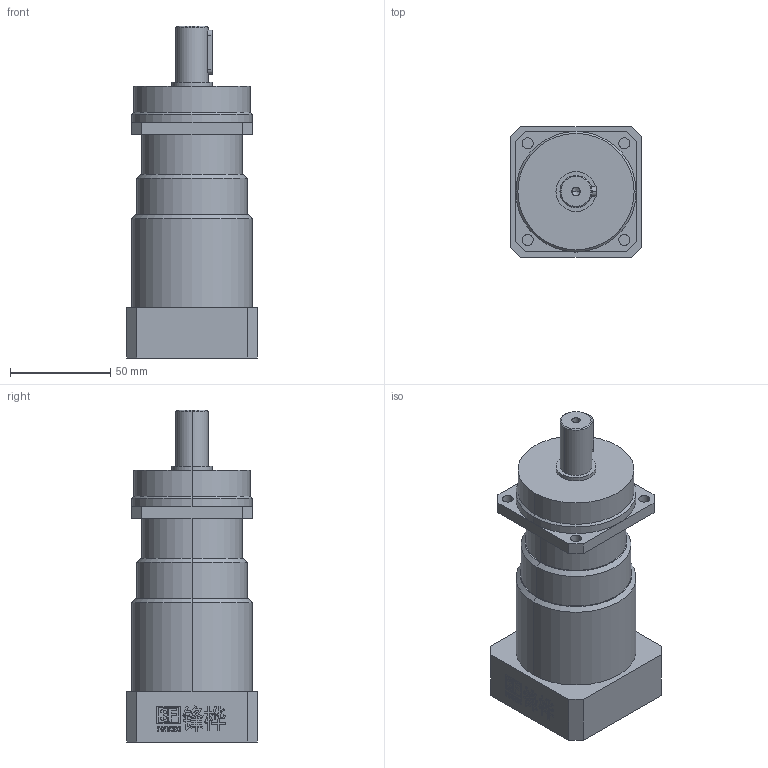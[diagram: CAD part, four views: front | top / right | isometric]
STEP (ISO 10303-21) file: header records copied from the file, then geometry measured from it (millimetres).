
FILE_DESCRIPTION (( 'STEP AP214' ), '1' );
FILE_NAME ('VRS060-L2.STEP', '2019-08-31T03:54:36', ( '微软用户' ), ( '微软中国' ), 'SwSTEP 2.0', 'SolidWorks 2014', '' );
FILE_SCHEMA (( 'AUTOMOTIVE_DESIGN' ));
Length unit declared in the file: millimetre
Products named in the file (2): VRS060-L2
Bounding box: 65 x 65 x 165.5 mm (x, y, z)
Volume: 377695.4 mm3; surface area: 41773.9 mm2
Topology: 1 solids, 1 shells, 715 faces, 2031 edges, 1340 vertices
Faces by surface type: plane 598, bspline 60, cylinder 39, cone 18
Entity records: 30010 total; most frequent: CARTESIAN_POINT 4918, ORIENTED_EDGE 4042, DIRECTION 3294, EDGE_CURVE 2021, LINE 1814, VECTOR 1814, VERTEX_POINT 1340, EDGE_LOOP 755
